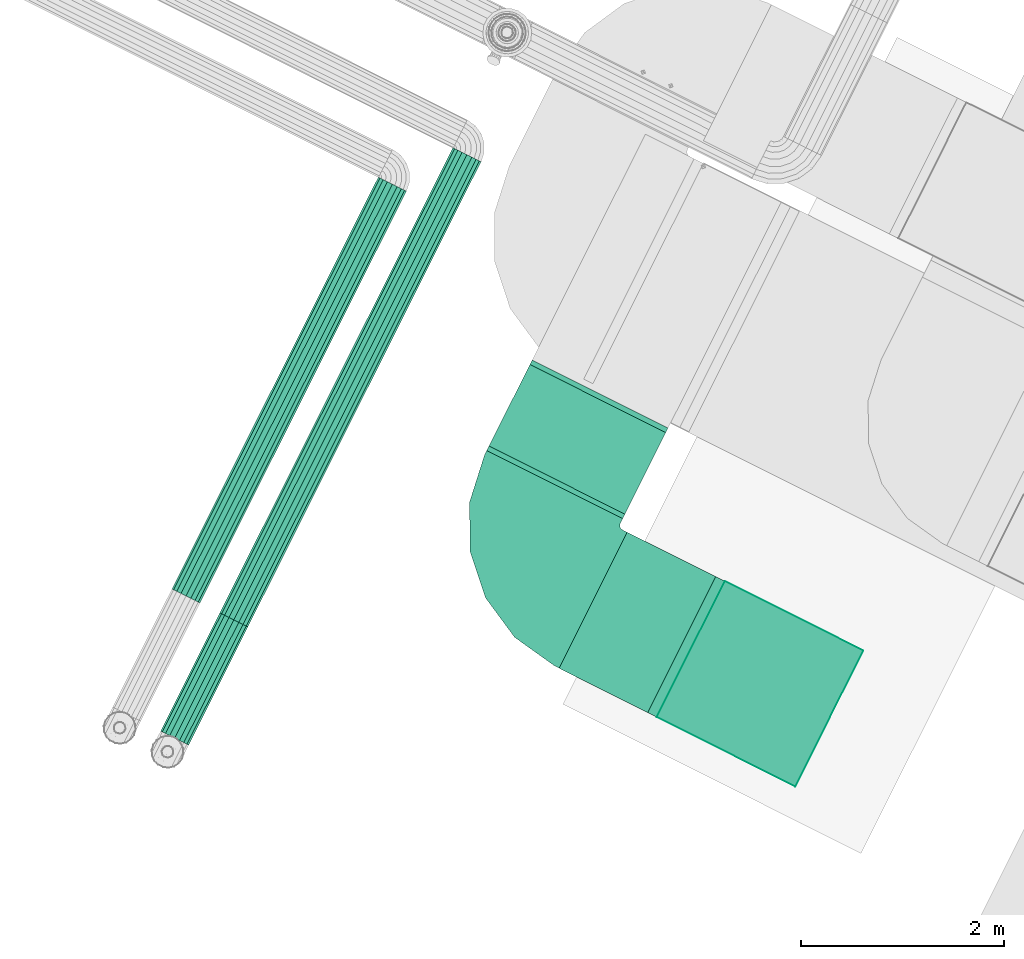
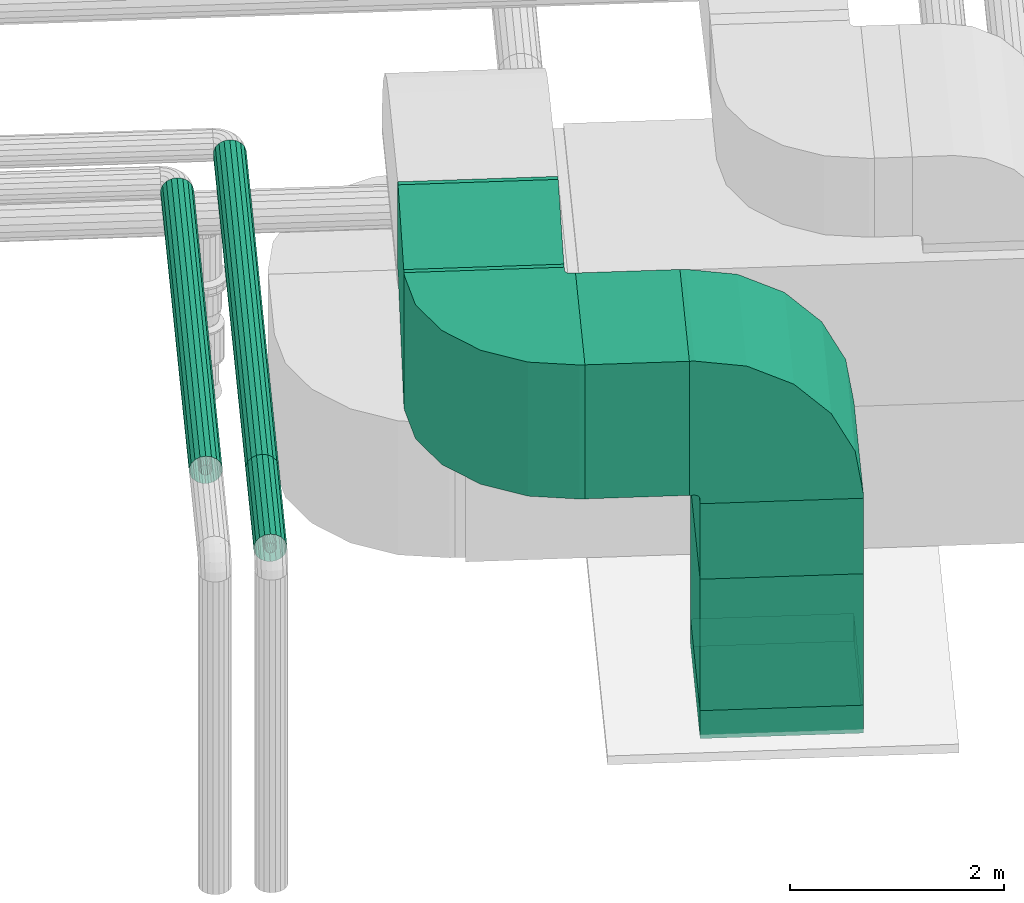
# One storey, part 5 of 152: 8 flow segments, 3 flow fittings.
"""IFC2X3 building model written with IfcOpenShell, lengths in metres."""

from ifc_helpers import new_model, si_unit, derived_unit, direction, frame, origin, place, context, subcontext, project, spatial, face_set, surface_model, source, transform, mapped, material, type_object, type_shapes, element, save


model = new_model("IFC2X3")

# Units and contexts
model_context = context("Model", 3, precision=5.2338327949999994e-05, world=origin(), true_north=direction((0.0, 1.0)))
body_context = subcontext(model_context, "Body", "Model", "MODEL_VIEW")
ifc_project = project(units=[si_unit("LENGTHUNIT", "METRE"), si_unit("AREAUNIT", "SQUARE_METRE"), si_unit("VOLUMEUNIT", "CUBIC_METRE"), si_unit("MASSUNIT", "GRAM", prefix="KILO"), si_unit("PLANEANGLEUNIT", "RADIAN"), derived_unit("THERMALTRANSMITTANCEUNIT", [(si_unit("MASSUNIT", "GRAM", prefix="KILO"), 1), (si_unit("THERMODYNAMICTEMPERATUREUNIT", "KELVIN"), -1), (si_unit("TIMEUNIT", "SECOND"), -3)])], contexts=[model_context])

# Site, building, storey
site_placement = place(None, frame((0.0, 0.0, 0.0), z_axis=(0.0, 0.0, 1.0), x_axis=(0.8939966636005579, -0.4480736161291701, 0.0)))
site = spatial("IfcSite", under=ifc_project, at=site_placement, Name="Default", CompositionType="ELEMENT")
building_placement = place(site_placement, origin())
building = spatial("IfcBuilding", under=site, at=building_placement, CompositionType="ELEMENT")
storey_placement = place(building_placement, frame((0.0, 0.0, 2.7499999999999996)))
storey = spatial("IfcBuildingStorey", under=building, at=storey_placement, Name="1. Obergeschoss", CompositionType="ELEMENT", Elevation=2.7499999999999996)

# Flow segments
ifc_material_1 = material(Name="IfcSurfaceStyle #9317")
distribution_element_type_1 = type_object("IfcDistributionElementType", Name="Stahlrohr nach DIN 2448 227828:Stahlrohr nach DIN 2448 227828", material=ifc_material_1)
shared_shape_1 = source(origin(), body_context, "Body", "SurfaceModel", [
    surface_model("IfcFaceBasedSurfaceModel", [(25.095699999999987, 6.614167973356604, 6.727550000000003), (25.076153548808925, 6.614167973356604, 6.724103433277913), (25.076153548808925, 2.0686797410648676, 6.7241034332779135), (25.095699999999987, 2.0686797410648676, 6.727550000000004), (25.058964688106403, 6.614167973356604, 6.714179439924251), (25.058964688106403, 2.0686797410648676, 6.714179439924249), (25.046206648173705, 6.614167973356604, 6.698975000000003), (25.046206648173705, 2.0686797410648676, 6.698974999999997), (25.039418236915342, 6.614167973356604, 6.680323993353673), (25.03941823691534, 2.0686797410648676, 6.680323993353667), (25.039418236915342, 6.614167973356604, 6.660476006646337), (25.039418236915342, 2.0686797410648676, 6.660476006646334), (25.0462066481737, 6.614167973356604, 6.641824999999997), (25.046206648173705, 2.0686797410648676, 6.641824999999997), (25.058964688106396, 6.614167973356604, 6.6266205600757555), (25.058964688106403, 2.0686797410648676, 6.626620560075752), (25.076153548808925, 6.614167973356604, 6.616696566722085), (25.07615354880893, 2.0686797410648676, 6.616696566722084), (25.095699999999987, 6.614167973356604, 6.613250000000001), (25.095699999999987, 2.0686797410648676, 6.613250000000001), (25.115246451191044, 6.614167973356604, 6.616696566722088), (25.11524645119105, 2.0686797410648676, 6.616696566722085), (25.13243531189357, 6.614167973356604, 6.6266205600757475), (25.132435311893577, 2.0686797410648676, 6.626620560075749), (25.14519335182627, 6.614167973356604, 6.641824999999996), (25.14519335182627, 2.0686797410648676, 6.641825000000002), (25.15198176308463, 6.614167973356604, 6.660476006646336), (25.151981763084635, 2.0686797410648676, 6.660476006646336), (25.15198176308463, 6.614167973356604, 6.680323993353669), (25.151981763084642, 2.0686797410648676, 6.6803239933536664), (25.14519335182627, 6.614167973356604, 6.698975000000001), (25.14519335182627, 2.0686797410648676, 6.698975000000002), (25.132435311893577, 6.614167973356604, 6.714179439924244), (25.132435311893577, 2.0686797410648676, 6.714179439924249), (25.11524645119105, 6.614167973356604, 6.724103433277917), (25.115246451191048, 2.0686797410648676, 6.724103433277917), (25.095699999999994, 6.614167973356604, 6.827550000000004), (25.041951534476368, 6.614167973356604, 6.818072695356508), (25.041951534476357, 2.0686797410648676, 6.818072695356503), (25.095699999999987, 2.0686797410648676, 6.827549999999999), (24.994685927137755, 6.614167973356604, 6.79078388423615), (24.99468592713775, 2.0686797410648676, 6.790783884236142), (24.95960410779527, 6.614167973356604, 6.74897500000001), (24.95960410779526, 2.0686797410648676, 6.748975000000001), (24.940937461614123, 6.614167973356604, 6.697688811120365), (24.94093746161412, 2.0686797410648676, 6.697688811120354), (24.94093746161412, 6.614167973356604, 6.643111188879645), (24.940937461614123, 2.0686797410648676, 6.643111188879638), (24.95960410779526, 6.614167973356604, 6.591825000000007), (24.959604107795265, 2.0686797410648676, 6.591824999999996), (24.994685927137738, 6.614167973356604, 6.550016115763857), (24.994685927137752, 2.0686797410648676, 6.550016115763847), (25.041951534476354, 6.614167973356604, 6.522727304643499), (25.041951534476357, 2.0686797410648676, 6.522727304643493), (25.09569999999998, 6.614167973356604, 6.513250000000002), (25.095699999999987, 2.0686797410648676, 6.513249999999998), (25.14944846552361, 6.614167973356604, 6.522727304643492), (25.149448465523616, 2.0686797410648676, 6.522727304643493), (25.196714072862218, 6.614167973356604, 6.550016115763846), (25.196714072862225, 2.0686797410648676, 6.550016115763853), (25.23179589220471, 6.614167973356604, 6.591824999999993), (25.231795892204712, 2.0686797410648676, 6.591824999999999), (25.250462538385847, 6.614167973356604, 6.643111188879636), (25.25046253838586, 2.0686797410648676, 6.643111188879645), (25.250462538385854, 6.614167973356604, 6.6976888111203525), (25.25046253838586, 2.0686797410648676, 6.69768881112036), (25.231795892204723, 6.614167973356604, 6.748974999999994), (25.23179589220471, 2.0686797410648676, 6.748975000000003), (25.196714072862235, 6.614167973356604, 6.790783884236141), (25.19671407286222, 2.0686797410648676, 6.790783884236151), (25.149448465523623, 6.614167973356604, 6.818072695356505), (25.149448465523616, 2.0686797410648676, 6.818072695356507)], [face_set([[[0, 1, 2, 3]], [[1, 4, 5, 2]], [[4, 6, 7, 5]], [[6, 8, 9, 7]], [[8, 10, 11, 9]], [[10, 12, 13, 11]], [[12, 14, 15, 13]], [[14, 16, 17, 15]], [[16, 18, 19, 17]], [[18, 20, 21, 19]], [[20, 22, 23, 21]], [[22, 24, 25, 23]], [[24, 26, 27, 25]], [[26, 28, 29, 27]], [[28, 30, 31, 29]], [[30, 32, 33, 31]], [[32, 34, 35, 33]], [[34, 0, 3, 35]], [[36, 37, 38, 39]], [[37, 40, 41, 38]], [[40, 42, 43, 41]], [[42, 44, 45, 43]], [[44, 46, 47, 45]], [[46, 48, 49, 47]], [[48, 50, 51, 49]], [[50, 52, 53, 51]], [[52, 54, 55, 53]], [[54, 56, 57, 55]], [[56, 58, 59, 57]], [[58, 60, 61, 59]], [[60, 62, 63, 61]], [[62, 64, 65, 63]], [[64, 66, 67, 65]], [[66, 68, 69, 67]], [[68, 70, 71, 69]], [[70, 36, 39, 71]]])]),
])
type_shapes(distribution_element_type_1, [shared_shape_1])
flow_segment_1_placement = place(storey_placement, frame((0.0, 0.0, -2.7499999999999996)))
element("IfcFlowSegment", 1, at=flow_segment_1_placement, inside=storey, type_object=distribution_element_type_1, material=ifc_material_1, Name="Stahlrohr nach DIN 2448", ObjectType="Stahlrohr nach DIN 2448", context=body_context, shape_type="MappedRepresentation", body=[
    mapped(shared_shape_1, transform((0.0, 0.0, 0.0), scale=1.0)),
])
ifc_material_2 = material(Name="IfcSurfaceStyle #1741")
distribution_element_type_2 = type_object("IfcDistributionElementType", Name="Stahlrohr nach DIN 2448 228109:Stahlrohr nach DIN 2448 228109", material=ifc_material_2)
shared_shape_2 = source(origin(), body_context, "Body", "SurfaceModel", [
    surface_model("IfcFaceBasedSurfaceModel", [(25.62429999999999, 7.203919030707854, 6.727550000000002), (25.60475354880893, 7.203919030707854, 6.724103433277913), (25.60475354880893, 2.0686797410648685, 6.724103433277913), (25.62429999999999, 2.0686797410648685, 6.727550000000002), (25.587564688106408, 7.203919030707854, 6.714179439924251), (25.58756468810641, 2.0686797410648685, 6.71417943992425), (25.574806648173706, 7.203919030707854, 6.698975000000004), (25.574806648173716, 2.0686797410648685, 6.698974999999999), (25.56801823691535, 7.203919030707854, 6.6803239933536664), (25.568018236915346, 2.0686797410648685, 6.680323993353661), (25.568018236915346, 7.203919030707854, 6.660476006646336), (25.568018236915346, 2.0686797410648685, 6.660476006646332), (25.57480664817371, 7.203919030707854, 6.641824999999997), (25.57480664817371, 2.0686797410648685, 6.641824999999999), (25.587564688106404, 7.203919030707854, 6.626620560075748), (25.587564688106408, 2.0686797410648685, 6.6266205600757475), (25.604753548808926, 7.203919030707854, 6.6166965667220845), (25.60475354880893, 2.0686797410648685, 6.616696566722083), (25.624299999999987, 7.203919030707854, 6.613250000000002), (25.624299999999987, 2.0686797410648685, 6.613249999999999), (25.64384645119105, 7.203919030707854, 6.616696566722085), (25.643846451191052, 2.0686797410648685, 6.6166965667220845), (25.661035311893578, 7.203919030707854, 6.626620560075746), (25.66103531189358, 2.0686797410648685, 6.626620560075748), (25.67379335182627, 7.203919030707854, 6.641824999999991), (25.673793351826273, 2.0686797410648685, 6.641824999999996), (25.68058176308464, 7.203919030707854, 6.660476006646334), (25.68058176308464, 2.0686797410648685, 6.6604760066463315), (25.680581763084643, 7.203919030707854, 6.6803239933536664), (25.680581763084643, 2.0686797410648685, 6.680323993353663), (25.67379335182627, 7.203919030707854, 6.698974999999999), (25.67379335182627, 2.0686797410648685, 6.698974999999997), (25.66103531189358, 7.203919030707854, 6.714179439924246), (25.66103531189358, 2.0686797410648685, 6.714179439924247), (25.643846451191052, 7.203919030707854, 6.724103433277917), (25.643846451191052, 2.0686797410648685, 6.724103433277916), (25.6243, 7.203919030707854, 6.827550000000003), (25.570551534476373, 7.203919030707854, 6.818072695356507), (25.57055153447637, 2.0686797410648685, 6.818072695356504), (25.624299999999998, 2.0686797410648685, 6.82755), (25.523285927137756, 7.203919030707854, 6.790783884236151), (25.523285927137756, 2.0686797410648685, 6.790783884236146), (25.48820410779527, 7.203919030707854, 6.748975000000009), (25.488204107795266, 2.0686797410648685, 6.748975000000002), (25.46953746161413, 7.203919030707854, 6.697688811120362), (25.469537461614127, 2.0686797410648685, 6.697688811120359), (25.469537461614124, 7.203919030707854, 6.643111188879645), (25.469537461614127, 2.0686797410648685, 6.64311118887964), (25.488204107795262, 7.203919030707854, 6.591825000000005), (25.48820410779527, 2.0686797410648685, 6.591824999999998), (25.52328592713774, 7.203919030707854, 6.550016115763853), (25.523285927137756, 2.0686797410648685, 6.5500161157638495), (25.57055153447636, 7.203919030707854, 6.5227273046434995), (25.57055153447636, 2.0686797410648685, 6.522727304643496), (25.624299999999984, 7.203919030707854, 6.513249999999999), (25.624299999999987, 2.0686797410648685, 6.513249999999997), (25.678048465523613, 7.203919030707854, 6.522727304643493), (25.67804846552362, 2.0686797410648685, 6.522727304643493), (25.725314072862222, 7.203919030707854, 6.550016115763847), (25.725314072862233, 2.0686797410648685, 6.550016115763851), (25.76039589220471, 7.203919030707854, 6.59182499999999), (25.76039589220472, 2.0686797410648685, 6.591824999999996), (25.779062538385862, 7.203919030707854, 6.64311118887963), (25.779062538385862, 2.0686797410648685, 6.6431111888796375), (25.779062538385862, 7.203919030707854, 6.697688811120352), (25.779062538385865, 2.0686797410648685, 6.697688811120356), (25.760395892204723, 7.203919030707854, 6.748974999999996), (25.760395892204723, 2.0686797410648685, 6.7489750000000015), (25.725314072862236, 7.203919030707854, 6.7907838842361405), (25.725314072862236, 2.0686797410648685, 6.790783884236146), (25.67804846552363, 7.203919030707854, 6.818072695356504), (25.67804846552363, 2.0686797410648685, 6.818072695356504)], [face_set([[[0, 1, 2, 3]], [[1, 4, 5, 2]], [[4, 6, 7, 5]], [[6, 8, 9, 7]], [[8, 10, 11, 9]], [[10, 12, 13, 11]], [[12, 14, 15, 13]], [[14, 16, 17, 15]], [[16, 18, 19, 17]], [[18, 20, 21, 19]], [[20, 22, 23, 21]], [[22, 24, 25, 23]], [[24, 26, 27, 25]], [[26, 28, 29, 27]], [[28, 30, 31, 29]], [[30, 32, 33, 31]], [[32, 34, 35, 33]], [[34, 0, 3, 35]], [[36, 37, 38, 39]], [[37, 40, 41, 38]], [[40, 42, 43, 41]], [[42, 44, 45, 43]], [[44, 46, 47, 45]], [[46, 48, 49, 47]], [[48, 50, 51, 49]], [[50, 52, 53, 51]], [[52, 54, 55, 53]], [[54, 56, 57, 55]], [[56, 58, 59, 57]], [[58, 60, 61, 59]], [[60, 62, 63, 61]], [[62, 64, 65, 63]], [[64, 66, 67, 65]], [[66, 68, 69, 67]], [[68, 70, 71, 69]], [[70, 36, 39, 71]]])]),
])
type_shapes(distribution_element_type_2, [shared_shape_2])
flow_segment_2_placement = place(storey_placement, frame((0.0, 0.0, -2.7499999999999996)))
element("IfcFlowSegment", 2, at=flow_segment_2_placement, inside=storey, type_object=distribution_element_type_2, material=ifc_material_2, Name="Stahlrohr nach DIN 2448", ObjectType="Stahlrohr nach DIN 2448", context=body_context, shape_type="MappedRepresentation", body=[
    mapped(shared_shape_2, transform((0.0, 0.0, 0.0), scale=1.0)),
])
distribution_element_type_3 = type_object("IfcDistributionElementType", Name="Stahlrohr nach DIN 2448 247853:Stahlrohr nach DIN 2448 247853", material=ifc_material_2)
shared_shape_3 = source(origin(), body_context, "Body", "SurfaceModel", [
    surface_model("IfcFaceBasedSurfaceModel", [(25.62429999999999, 2.0686797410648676, 6.613249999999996), (25.643846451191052, 2.0686797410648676, 6.616696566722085), (25.643846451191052, 0.7642997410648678, 6.616696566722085), (25.62429999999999, 0.7642997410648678, 6.613249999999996), (25.66103531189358, 2.0686797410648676, 6.626620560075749), (25.66103531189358, 0.7642997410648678, 6.626620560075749), (25.673793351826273, 2.0686797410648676, 6.641824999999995), (25.673793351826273, 0.7642997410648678, 6.641825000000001), (25.680581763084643, 2.0686797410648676, 6.66047600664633), (25.680581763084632, 0.7642997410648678, 6.660476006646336), (25.680581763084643, 2.0686797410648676, 6.680323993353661), (25.680581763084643, 0.7642997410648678, 6.680323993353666), (25.673793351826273, 2.0686797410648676, 6.698974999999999), (25.673793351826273, 0.7642997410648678, 6.698974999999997), (25.66103531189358, 2.0686797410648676, 6.714179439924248), (25.66103531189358, 0.7642997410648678, 6.714179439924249), (25.643846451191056, 2.0686797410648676, 6.72410343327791), (25.643846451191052, 0.7642997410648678, 6.7241034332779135), (25.624299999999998, 2.0686797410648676, 6.727549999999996), (25.624299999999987, 0.7642997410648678, 6.72755), (25.604753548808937, 2.0686797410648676, 6.7241034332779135), (25.604753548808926, 0.7642997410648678, 6.724103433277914), (25.58756468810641, 2.0686797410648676, 6.714179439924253), (25.587564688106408, 0.7642997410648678, 6.714179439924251), (25.574806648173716, 2.0686797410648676, 6.698975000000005), (25.574806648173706, 0.7642997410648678, 6.698974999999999), (25.568018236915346, 2.0686797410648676, 6.680323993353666), (25.568018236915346, 0.7642997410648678, 6.680323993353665), (25.568018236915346, 2.0686797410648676, 6.6604760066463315), (25.568018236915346, 0.7642997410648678, 6.660476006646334), (25.574806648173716, 2.0686797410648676, 6.641825), (25.574806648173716, 0.7642997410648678, 6.641825), (25.587564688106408, 2.0686797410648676, 6.626620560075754), (25.587564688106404, 0.7642997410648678, 6.626620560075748), (25.60475354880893, 2.0686797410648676, 6.616696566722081), (25.604753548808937, 0.7642997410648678, 6.616696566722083), (25.624299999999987, 2.0686797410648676, 6.513249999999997), (25.678048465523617, 2.0686797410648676, 6.522727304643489), (25.678048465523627, 0.7642997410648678, 6.522727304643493), (25.62429999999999, 0.7642997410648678, 6.513249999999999), (25.725314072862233, 2.0686797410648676, 6.550016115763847), (25.725314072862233, 0.7642997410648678, 6.550016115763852), (25.760395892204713, 2.0686797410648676, 6.591824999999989), (25.76039589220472, 0.7642997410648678, 6.591825), (25.779062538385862, 2.0686797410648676, 6.643111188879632), (25.779062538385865, 0.7642997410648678, 6.64311118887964), (25.779062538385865, 2.0686797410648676, 6.69768881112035), (25.779062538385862, 0.7642997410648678, 6.697688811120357), (25.760395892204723, 2.0686797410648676, 6.748974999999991), (25.76039589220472, 0.7642997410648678, 6.748975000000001), (25.725314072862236, 2.0686797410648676, 6.79078388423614), (25.72531407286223, 0.7642997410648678, 6.790783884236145), (25.678048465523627, 2.0686797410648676, 6.818072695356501), (25.678048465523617, 0.7642997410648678, 6.818072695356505), (25.6243, 2.0686797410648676, 6.827549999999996), (25.624299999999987, 0.7642997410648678, 6.8275500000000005), (25.570551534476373, 2.0686797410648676, 6.8180726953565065), (25.57055153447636, 0.7642997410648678, 6.818072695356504), (25.523285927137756, 2.0686797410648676, 6.790783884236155), (25.52328592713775, 0.7642997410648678, 6.790783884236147), (25.48820410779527, 2.0686797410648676, 6.748975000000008), (25.488204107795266, 0.7642997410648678, 6.748974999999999), (25.469537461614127, 2.0686797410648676, 6.697688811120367), (25.469537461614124, 0.7642997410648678, 6.697688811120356), (25.46953746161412, 2.0686797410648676, 6.64311118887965), (25.469537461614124, 0.7642997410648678, 6.64311118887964), (25.488204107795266, 2.0686797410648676, 6.591825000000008), (25.48820410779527, 0.7642997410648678, 6.591825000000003), (25.52328592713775, 2.0686797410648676, 6.550016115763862), (25.523285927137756, 0.7642997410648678, 6.550016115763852), (25.57055153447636, 2.0686797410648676, 6.522727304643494), (25.570551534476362, 0.7642997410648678, 6.522727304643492)], [face_set([[[0, 1, 2, 3]], [[1, 4, 5, 2]], [[4, 6, 7, 5]], [[6, 8, 9, 7]], [[8, 10, 11, 9]], [[10, 12, 13, 11]], [[12, 14, 15, 13]], [[14, 16, 17, 15]], [[16, 18, 19, 17]], [[18, 20, 21, 19]], [[20, 22, 23, 21]], [[22, 24, 25, 23]], [[24, 26, 27, 25]], [[26, 28, 29, 27]], [[28, 30, 31, 29]], [[30, 32, 33, 31]], [[32, 34, 35, 33]], [[34, 0, 3, 35]], [[36, 37, 38, 39]], [[37, 40, 41, 38]], [[40, 42, 43, 41]], [[42, 44, 45, 43]], [[44, 46, 47, 45]], [[46, 48, 49, 47]], [[48, 50, 51, 49]], [[50, 52, 53, 51]], [[52, 54, 55, 53]], [[54, 56, 57, 55]], [[56, 58, 59, 57]], [[58, 60, 61, 59]], [[60, 62, 63, 61]], [[62, 64, 65, 63]], [[64, 66, 67, 65]], [[66, 68, 69, 67]], [[68, 70, 71, 69]], [[70, 36, 39, 71]]])]),
])
type_shapes(distribution_element_type_3, [shared_shape_3])
flow_segment_3_placement = place(storey_placement, frame((0.0, 0.0, -2.7499999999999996)))
element("IfcFlowSegment", 3, at=flow_segment_3_placement, inside=storey, type_object=distribution_element_type_3, material=ifc_material_2, Name="Stahlrohr nach DIN 2448", ObjectType="Stahlrohr nach DIN 2448", context=body_context, shape_type="MappedRepresentation", body=[
    mapped(shared_shape_3, transform((0.0, 0.0, 0.0), scale=1.0)),
])

# Flow fittings
ifc_material_3 = material(Name="IfcSurfaceStyle #271263")
distribution_element_type_4 = type_object("IfcDistributionElementType", Name="Bogen symmetrisch 272910:Bogen symmetrisch 272910", material=ifc_material_3)
shared_shape_4 = source(origin(), body_context, "Body", "SurfaceModel", [
    surface_model("IfcFaceBasedSurfaceModel", [(27.106999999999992, 4.63186958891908, 5.482814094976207), (27.182862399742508, 4.152893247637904, 5.482814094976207), (27.182862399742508, 4.152893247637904, 7.012814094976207), (27.106999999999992, 4.63186958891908, 7.012814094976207), (27.40302365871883, 3.720802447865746, 5.482814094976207), (27.40302365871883, 3.720802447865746, 7.012814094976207), (27.74593285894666, 3.377893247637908, 5.482814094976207), (27.74593285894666, 3.377893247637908, 7.012814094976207), (28.178023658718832, 3.1577319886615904, 5.482814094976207), (28.178023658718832, 3.1577319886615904, 7.012814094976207), (28.657, 3.081869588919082, 5.482814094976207), (28.657, 3.081869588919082, 7.012814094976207), (27.106999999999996, 4.68186958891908, 7.012814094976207), (27.106999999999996, 4.68186958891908, 5.482814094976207), (28.607, 4.6818695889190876, 7.012814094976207), (28.607, 4.631869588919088, 7.012814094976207), (28.607, 4.631869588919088, 5.482814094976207), (28.607, 4.6818695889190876, 5.482814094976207), (28.657, 4.581869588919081, 5.482814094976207), (28.641549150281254, 4.584316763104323, 5.482814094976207), (28.641549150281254, 4.584316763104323, 7.012814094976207), (28.657, 4.581869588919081, 7.012814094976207), (28.62761073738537, 4.591418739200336, 5.482814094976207), (28.62761073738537, 4.591418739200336, 7.012814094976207), (28.616549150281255, 4.602480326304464, 5.482814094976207), (28.616549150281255, 4.602480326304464, 7.012814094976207), (28.609447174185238, 4.616418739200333, 5.482814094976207), (28.609447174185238, 4.616418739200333, 7.012814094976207), (28.706999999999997, 4.581869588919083, 7.012814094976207), (28.706999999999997, 4.581869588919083, 5.482814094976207), (28.706999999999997, 3.081869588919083, 7.012814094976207), (28.706999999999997, 3.081869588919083, 5.482814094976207)], [face_set([[[0, 1, 2, 3]], [[1, 4, 5, 2]], [[4, 6, 7, 5]], [[6, 8, 9, 7]], [[8, 10, 11, 9]], [[3, 12, 13, 0]], [[14, 15, 16, 17]], [[18, 19, 20, 21]], [[19, 22, 23, 20]], [[22, 24, 25, 23]], [[24, 26, 27, 25]], [[26, 16, 15, 27]], [[21, 28, 29, 18]], [[30, 11, 10, 31]], [[1, 0, 26]], [[1, 26, 24]], [[1, 24, 22]], [[1, 22, 19]], [[1, 19, 18]], [[1, 18, 31]], [[1, 31, 4]], [[16, 26, 0]], [[16, 0, 13]], [[16, 13, 17]], [[31, 10, 8]], [[31, 8, 6]], [[31, 6, 4]], [[31, 18, 29]], [[27, 3, 2]], [[25, 27, 2]], [[23, 25, 2]], [[20, 23, 2]], [[21, 20, 2]], [[30, 21, 2]], [[5, 30, 2]], [[3, 27, 15]], [[12, 3, 15]], [[14, 12, 15]], [[9, 11, 30]], [[7, 9, 30]], [[5, 7, 30]], [[28, 21, 30]]])]),
])
type_shapes(distribution_element_type_4, [shared_shape_4])
flow_fitting_1_placement = place(storey_placement, frame((0.0, 0.0, -2.7499999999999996)))
element("IfcFlowFitting", 4, at=flow_fitting_1_placement, inside=storey, type_object=distribution_element_type_4, material=ifc_material_3, Name="Bogen symmetrisch", ObjectType="Bogen symmetrisch", context=body_context, shape_type="MappedRepresentation", body=[
    mapped(shared_shape_4, transform((0.0, 0.0, 0.0), scale=1.0)),
])
distribution_element_type_5 = type_object("IfcDistributionElementType", Name="Bogen symmetrisch 272938:Bogen symmetrisch 272938", material=ifc_material_3)
shared_shape_5 = source(origin(), body_context, "Body", "SurfaceModel", [
    surface_model("IfcFaceBasedSurfaceModel", [(31.31500000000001, 4.58186958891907, 5.432814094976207), (31.23766929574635, 4.581869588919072, 5.921060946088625), (31.23766929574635, 3.0818695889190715, 5.921060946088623), (31.31500000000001, 3.0818695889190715, 5.432814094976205), (31.013246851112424, 4.581869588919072, 6.361514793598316), (31.013246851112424, 3.0818695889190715, 6.361514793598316), (30.663700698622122, 4.581869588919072, 6.711060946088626), (30.663700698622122, 3.0818695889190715, 6.711060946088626), (30.223246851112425, 4.581869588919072, 6.935483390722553), (30.223246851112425, 3.0818695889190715, 6.935483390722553), (29.735000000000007, 4.581869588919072, 7.012814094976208), (29.735000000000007, 3.0818695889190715, 7.012814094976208), (31.31500000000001, 3.0818695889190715, 5.382814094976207), (31.31500000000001, 4.58186958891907, 5.382814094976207), (29.785000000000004, 3.0818695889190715, 5.382814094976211), (29.785000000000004, 3.0818695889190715, 5.43281409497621), (29.785000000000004, 4.581869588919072, 5.43281409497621), (29.785000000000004, 4.581869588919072, 5.382814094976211), (29.735000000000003, 4.581869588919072, 5.482814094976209), (29.750450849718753, 4.581869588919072, 5.480366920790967), (29.750450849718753, 3.0818695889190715, 5.480366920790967), (29.735000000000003, 3.0818695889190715, 5.482814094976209), (29.76438926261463, 4.581869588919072, 5.473264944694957), (29.76438926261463, 3.0818695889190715, 5.473264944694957), (29.77545084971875, 4.581869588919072, 5.462203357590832), (29.77545084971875, 3.0818695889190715, 5.462203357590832), (29.782552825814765, 4.581869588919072, 5.448264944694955), (29.782552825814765, 3.0818695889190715, 5.448264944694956), (29.68500000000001, 3.0818695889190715, 5.48281409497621), (29.68500000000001, 4.581869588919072, 5.48281409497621), (29.68500000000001, 3.0818695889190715, 7.012814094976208), (29.68500000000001, 4.581869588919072, 7.012814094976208)], [face_set([[[0, 1, 2, 3]], [[1, 4, 5, 2]], [[4, 6, 7, 5]], [[6, 8, 9, 7]], [[8, 10, 11, 9]], [[3, 12, 13, 0]], [[14, 15, 16, 17]], [[18, 19, 20, 21]], [[19, 22, 23, 20]], [[22, 24, 25, 23]], [[24, 26, 27, 25]], [[26, 16, 15, 27]], [[21, 28, 29, 18]], [[30, 11, 10, 31]], [[1, 0, 26]], [[1, 26, 24]], [[1, 24, 22]], [[1, 22, 19]], [[1, 19, 18]], [[1, 18, 31]], [[1, 31, 4]], [[16, 26, 0]], [[16, 0, 13]], [[16, 13, 17]], [[31, 10, 8]], [[31, 8, 6]], [[31, 6, 4]], [[31, 18, 29]], [[27, 3, 2]], [[25, 27, 2]], [[23, 25, 2]], [[20, 23, 2]], [[21, 20, 2]], [[30, 21, 2]], [[5, 30, 2]], [[3, 27, 15]], [[12, 3, 15]], [[14, 12, 15]], [[9, 11, 30]], [[7, 9, 30]], [[5, 7, 30]], [[28, 21, 30]]])]),
])
type_shapes(distribution_element_type_5, [shared_shape_5])
flow_fitting_2_placement = place(storey_placement, frame((0.0, 0.0, -2.7499999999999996)))
element("IfcFlowFitting", 5, at=flow_fitting_2_placement, inside=storey, type_object=distribution_element_type_5, material=ifc_material_3, Name="Bogen symmetrisch", ObjectType="Bogen symmetrisch", context=body_context, shape_type="MappedRepresentation", body=[
    mapped(shared_shape_5, transform((0.0, 0.0, 0.0), scale=1.0)),
])

# Flow segments
distribution_element_type_6 = type_object("IfcDistributionElementType", Name="Luftleitung:Luftleitung", material=ifc_material_3)
shared_shape_6 = source(origin(), body_context, "Body", "SurfaceModel", [
    surface_model("IfcFaceBasedSurfaceModel", [(29.785000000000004, 4.581869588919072, 4.521), (29.785000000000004, 4.581869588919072, 3.021), (29.785000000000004, 3.0818695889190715, 3.021), (29.785000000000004, 3.0818695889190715, 4.521), (31.31500000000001, 3.0818695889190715, 3.021), (31.31500000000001, 3.0818695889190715, 4.521), (31.31500000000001, 4.58186958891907, 3.021), (31.31500000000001, 4.581869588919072, 4.521)], [face_set([[[0, 1, 2, 3]], [[3, 2, 4, 5]], [[5, 4, 6, 7]], [[7, 6, 1, 0]]])]),
])
type_shapes(distribution_element_type_6, [shared_shape_6])
flow_segment_4_placement = place(storey_placement, frame((0.0, 0.0, -2.7499999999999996)))
element("IfcFlowSegment", 6, at=flow_segment_4_placement, inside=storey, type_object=distribution_element_type_6, material=ifc_material_3, Name="Luftleitung", ObjectType="Luftleitung", context=body_context, shape_type="MappedRepresentation", body=[
    mapped(shared_shape_6, transform((0.0, 0.0, 0.0), scale=1.0)),
])
distribution_element_type_7 = type_object("IfcDistributionElementType", Name="Luftleitungsteil 273492:Luftleitungsteil 273492", material=ifc_material_3)
shared_shape_7 = source(origin(), body_context, "Body", "SurfaceModel", [
    surface_model("IfcFaceBasedSurfaceModel", [(29.785000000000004, 4.581869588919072, 3.021), (29.785000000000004, 4.581869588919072, 2.701781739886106), (29.785000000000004, 3.0818695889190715, 2.701781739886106), (29.785000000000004, 3.0818695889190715, 3.021), (31.31500000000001, 3.0818695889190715, 2.7017817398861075), (31.31500000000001, 3.0818695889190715, 3.021), (31.31500000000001, 4.581869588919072, 2.701781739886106), (31.31500000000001, 4.58186958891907, 3.021)], [face_set([[[0, 1, 2, 3]], [[3, 2, 4, 5]], [[5, 4, 6, 7]], [[7, 6, 1, 0]]])]),
])
type_shapes(distribution_element_type_7, [shared_shape_7])
flow_segment_5_placement = place(storey_placement, frame((0.0, 0.0, -2.7499999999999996)))
element("IfcFlowSegment", 7, at=flow_segment_5_placement, inside=storey, type_object=distribution_element_type_7, material=ifc_material_3, Name="Luftleitungsteil", ObjectType="Luftleitungsteil", context=body_context, shape_type="MappedRepresentation", body=[
    mapped(shared_shape_7, transform((0.0, 0.0, 0.0), scale=1.0)),
])
distribution_element_type_8 = type_object("IfcDistributionElementType", Name="Luftleitungsteil 274141:Luftleitungsteil 274141", material=ifc_material_3)
shared_shape_8 = source(origin(), body_context, "Body", "SurfaceModel", [
    surface_model("IfcFaceBasedSurfaceModel", [(31.31500000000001, 4.58186958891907, 4.521), (31.31500000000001, 4.58186958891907, 5.382814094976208), (31.31500000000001, 3.081869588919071, 5.382814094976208), (31.31500000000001, 3.0818695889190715, 4.521), (29.785000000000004, 3.081869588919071, 5.382814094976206), (29.785000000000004, 3.081869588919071, 4.521), (29.785000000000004, 4.58186958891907, 5.382814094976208), (29.785000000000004, 4.581869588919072, 4.521)], [face_set([[[0, 1, 2, 3]], [[3, 2, 4, 5]], [[5, 4, 6, 7]], [[7, 6, 1, 0]]])]),
])
type_shapes(distribution_element_type_8, [shared_shape_8])
flow_segment_6_placement = place(storey_placement, frame((0.0, 0.0, -2.7499999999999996)))
element("IfcFlowSegment", 8, at=flow_segment_6_placement, inside=storey, type_object=distribution_element_type_8, material=ifc_material_3, Name="Luftleitungsteil", ObjectType="Luftleitungsteil", context=body_context, shape_type="MappedRepresentation", body=[
    mapped(shared_shape_8, transform((0.0, 0.0, 0.0), scale=1.0)),
])

# Flow fitting
distribution_element_type_9 = type_object("IfcDistributionElementType", Name="Übergang asymmetrisch:Übergang asymmetrisch", material=ifc_material_3)
shared_shape_9 = source(origin(), body_context, "Body", "SurfaceModel", [
    surface_model("IfcFaceBasedSurfaceModel", [(27.106999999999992, 4.681869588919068, 5.482814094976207), (27.106999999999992, 4.731869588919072, 5.482814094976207), (28.606999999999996, 4.731869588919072, 5.482814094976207), (28.606999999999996, 4.6818695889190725, 5.482814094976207), (28.606999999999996, 4.731869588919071, 7.012814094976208), (28.606999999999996, 4.6818695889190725, 7.012814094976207), (27.106999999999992, 4.731869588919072, 7.012814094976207), (27.106999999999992, 4.6818695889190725, 7.012814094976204), (27.106999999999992, 5.631869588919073, 6.351), (27.106999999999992, 5.6818695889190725, 6.351), (28.606999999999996, 5.6818695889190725, 6.351), (28.606999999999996, 5.631869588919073, 6.351), (28.606999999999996, 5.6818695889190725, 7.351), (28.606999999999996, 5.631869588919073, 7.351), (27.106999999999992, 5.6818695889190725, 7.351), (27.106999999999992, 5.631869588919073, 7.351)], [face_set([[[0, 1, 2, 3]], [[3, 2, 4, 5]], [[5, 4, 6, 7]], [[7, 6, 1, 0]], [[8, 9, 10, 11]], [[11, 10, 12, 13]], [[13, 12, 14, 15]], [[15, 14, 9, 8]], [[4, 13, 15, 6]], [[11, 2, 1, 8]], [[1, 6, 15]], [[1, 15, 8]], [[2, 4, 13]], [[2, 13, 11]]])]),
])
type_shapes(distribution_element_type_9, [shared_shape_9])
flow_fitting_3_placement = place(storey_placement, frame((0.0, 0.0, -2.7499999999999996)))
element("IfcFlowFitting", 9, at=flow_fitting_3_placement, inside=storey, type_object=distribution_element_type_9, material=ifc_material_3, Name="Übergang asymmetrisch", ObjectType="Übergang asymmetrisch", context=body_context, shape_type="MappedRepresentation", body=[
    mapped(shared_shape_9, transform((0.0, 0.0, 0.0), scale=1.0)),
])

# Flow segments
distribution_element_type_10 = type_object("IfcDistributionElementType", Name="Luftleitung 277095:Luftleitung 277095", material=ifc_material_3)
shared_shape_10 = source(origin(), body_context, "Body", "SurfaceModel", [
    surface_model("IfcFaceBasedSurfaceModel", [(29.68500000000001, 4.58186958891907, 7.012814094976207), (28.706999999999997, 4.58186958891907, 7.012814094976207), (28.706999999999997, 3.081869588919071, 7.012814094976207), (29.68500000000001, 3.0818695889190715, 7.012814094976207), (28.706999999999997, 3.081869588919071, 5.482814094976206), (29.68500000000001, 3.081869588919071, 5.482814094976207), (28.706999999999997, 4.581869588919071, 5.482814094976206), (29.68500000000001, 4.581869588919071, 5.482814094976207)], [face_set([[[0, 1, 2, 3]], [[3, 2, 4, 5]], [[5, 4, 6, 7]], [[7, 6, 1, 0]]])]),
])
type_shapes(distribution_element_type_10, [shared_shape_10])
flow_segment_7_placement = place(storey_placement, frame((0.0, 0.0, -2.7499999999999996)))
element("IfcFlowSegment", 10, at=flow_segment_7_placement, inside=storey, type_object=distribution_element_type_10, material=ifc_material_3, Name="Luftleitung", ObjectType="Luftleitung", context=body_context, shape_type="MappedRepresentation", body=[
    mapped(shared_shape_10, transform((0.0, 0.0, 0.0), scale=1.0)),
])
distribution_element_type_11 = type_object("IfcDistributionElementType", Name="Luftleitungsteil 852361:Luftleitungsteil 852361", material=ifc_material_3)
shared_shape_11 = source(origin(), body_context, "Body", "SurfaceModel", [
    surface_model("IfcFaceBasedSurfaceModel", [(29.785000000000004, 4.581869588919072, 3.0210000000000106), (29.785000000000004, 4.581869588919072, 2.7017817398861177), (29.785000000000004, 3.0818695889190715, 2.7017817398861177), (29.785000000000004, 3.0818695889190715, 3.0210000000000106), (31.31500000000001, 3.0818695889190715, 2.701781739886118), (31.31500000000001, 3.0818695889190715, 3.0210000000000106), (31.31500000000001, 4.581869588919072, 2.7017817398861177), (31.31500000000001, 4.58186958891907, 3.0210000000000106)], [face_set([[[0, 1, 2, 3]], [[3, 2, 4, 5]], [[5, 4, 6, 7]], [[7, 6, 1, 0]]])]),
])
type_shapes(distribution_element_type_11, [shared_shape_11])
flow_segment_8_placement = place(storey_placement, frame((0.0, 0.0, -2.7499999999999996)))
element("IfcFlowSegment", 11, at=flow_segment_8_placement, inside=storey, type_object=distribution_element_type_11, material=ifc_material_3, Name="Luftleitungsteil", ObjectType="Luftleitungsteil", context=body_context, shape_type="MappedRepresentation", body=[
    mapped(shared_shape_11, transform((0.0, 0.0, 0.0), scale=1.0)),
])

save(model, "model.ifc")
